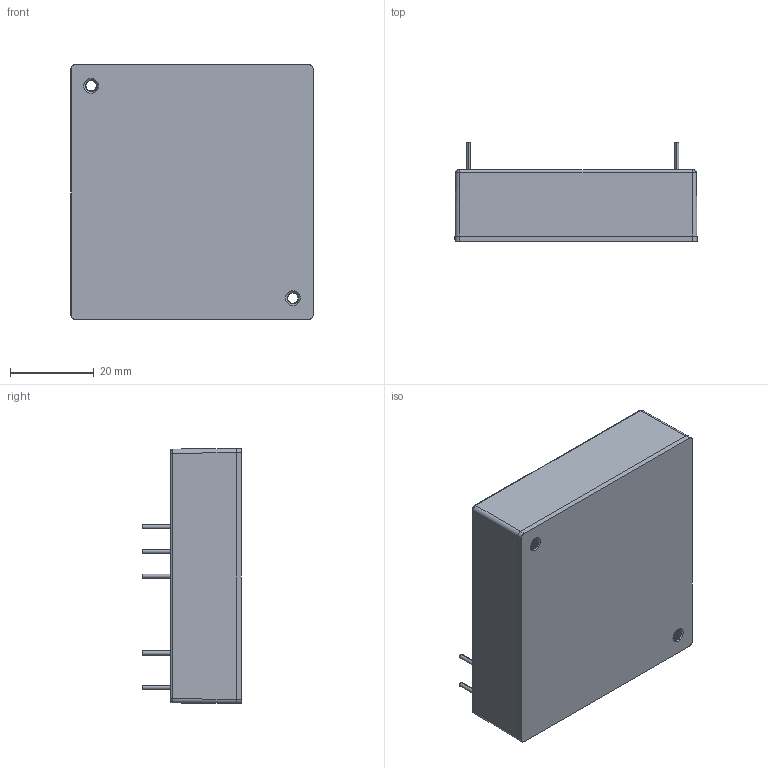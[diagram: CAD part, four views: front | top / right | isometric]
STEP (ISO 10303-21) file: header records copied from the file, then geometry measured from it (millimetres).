
FILE_DESCRIPTION (( 'STEP AP214' ), '1' );
FILE_NAME ('CBM70S成品圖V1.3-1120523.STEP', '2023-05-24T00:52:34', ( 'cincon' ), ( '' ), 'SwSTEP 2.0', 'SolidWorks 2020', '' );
FILE_SCHEMA (( 'AUTOMOTIVE_DESIGN' ));
Length unit declared in the file: millimetre
Products named in the file (1): CBM70S成品圖V1.3-1120523
Bounding box: 57.9 x 23.6 x 61 mm (x, y, z)
Volume: 15080.2 mm3; surface area: 27955.6 mm2
Topology: 6 solids, 8 shells, 695 faces, 1877 edges, 1243 vertices
Faces by surface type: plane 326, cylinder 213, bspline 127, cone 29
Entity records: 40703 total; most frequent: CARTESIAN_POINT 17050, ORIENTED_EDGE 3754, DIRECTION 2641, EDGE_CURVE 1877, VERTEX_POINT 1243, VECTOR 1125, LINE 1125, EDGE_LOOP 776
